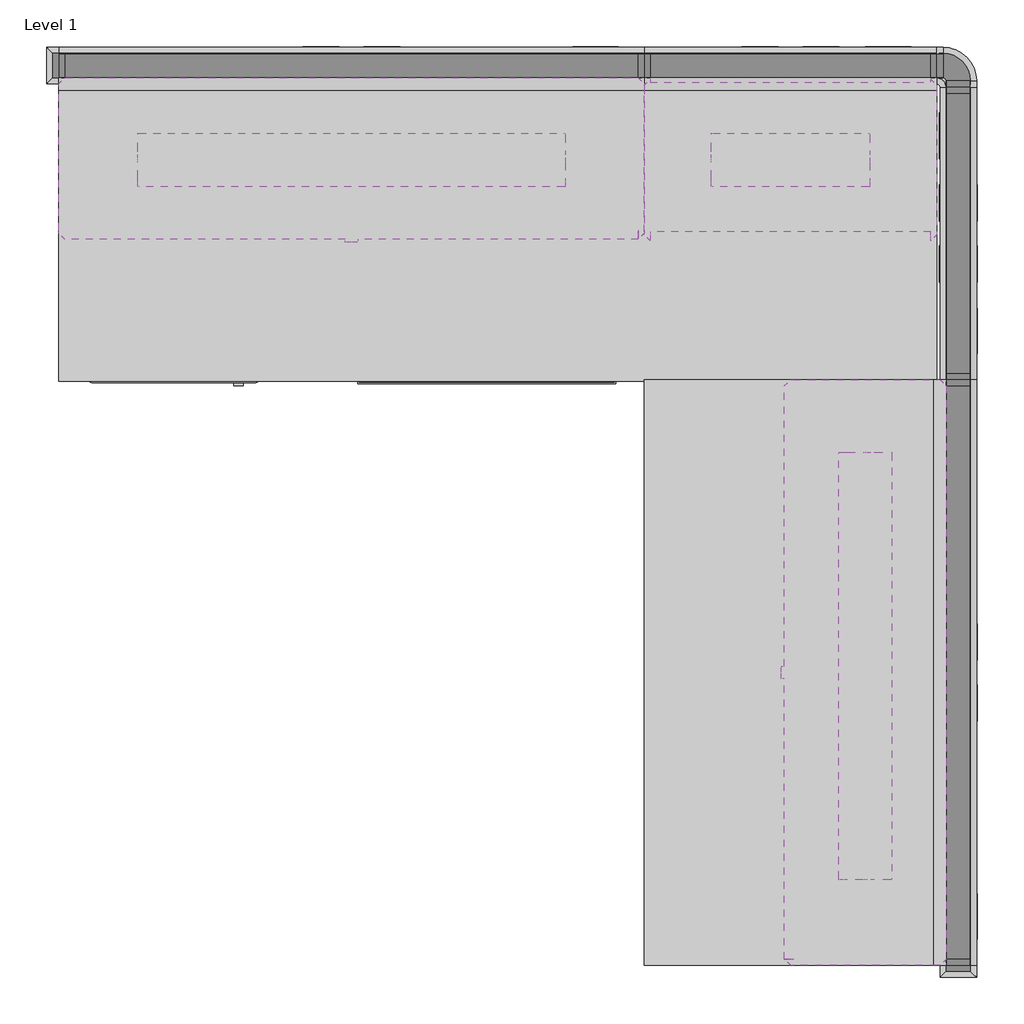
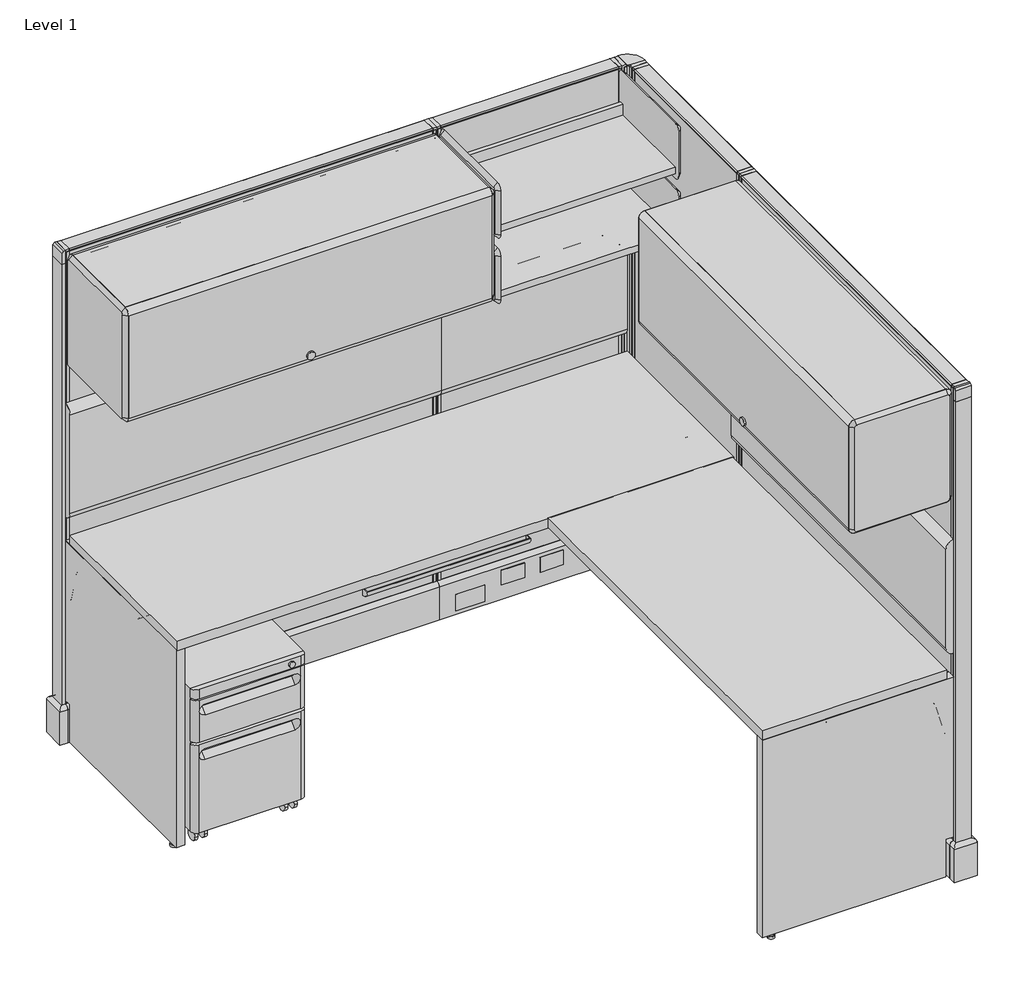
# One storey, incomplete: 20 furniture elements, 3 light fixtures.
"""IFC4 building model written with IfcOpenShell, lengths in millimetres."""

from ifc_helpers import new_model, si_unit, origin, place, context, project, spatial, transform, mapped, element, save
from components import furniture_d54c757f, furniture_899296cf, furniture_561e1995, furniture_cb78dd66, furniture_6098a880, furniture_f3dbc57d, furniture_083a197f, furniture_061b7ed1, furniture_f221023d, furniture_98713a82, furniture_84c54a78, furniture_b7c7402d, furniture_5c2546f9, furniture_ba981915, light_fixture_75efd82d, light_fixture_56844cd6

model = new_model("IFC4")

# Units and contexts
model_context = context("Model", 3, world=origin())
ifc_project = project(units=[si_unit("LENGTHUNIT", "METRE", prefix="MILLI")], contexts=[model_context])

# Site, building, storey
site = spatial("IfcSite", under=ifc_project)
building = spatial("IfcBuilding", under=site)
storey = spatial("IfcBuildingStorey", under=building, Name="Level 1", Elevation=0.0)

# Furniture
placement = place(None, origin())
furniture_shape = furniture_d54c757f(model_context)
element("IfcFurniture", 1, ObjectType="HermanMiller_ThrivePortfolio_Y5010_PencilDrawer : 2\"H x 16\"D x 21\"W", at=placement, inside=storey, context=model_context, shape_type="MappedRepresentation", body=[
    mapped(furniture_shape, transform((891.26568, -481.86848, 0.0), x_axis=(1.0, 0.0, 0.0), y_axis=(0.0, 1.0, 0.0), z_axis=(0.0, 0.0, 1.0))),
])
furniture_2_shape = furniture_899296cf(model_context)
element("IfcFurniture", 2, ObjectType="HermanMiller_ActionOffice_A3220_B-StyleStorageDisplay : Shelf 13\"D x 24\"W", at=placement, inside=storey, context=model_context, shape_type="MappedRepresentation", body=[
    mapped(furniture_2_shape, transform((1647.9420045, -234.95, 0.0), x_axis=(1.0, 0.0, 0.0), y_axis=(0.0, 1.0, 0.0), z_axis=(0.0, 0.0, 1.0))),
])
furniture_3_shape = furniture_561e1995(model_context)
element("IfcFurniture", 3, ObjectType="HermanMiller_ActionOffice_A3220_B-StyleStorageDisplay : Shelf 13\"D x 24\"W", at=placement, inside=storey, context=model_context, shape_type="MappedRepresentation", body=[
    mapped(furniture_3_shape, transform((1647.9420045, -234.95, 0.0), x_axis=(1.0, 0.0, 0.0), y_axis=(0.0, 1.0, 0.0), z_axis=(0.0, 0.0, 1.0))),
])
furniture_4_shape = furniture_cb78dd66(model_context)
element("IfcFurniture", 4, ObjectType="HermanMiller_ActionOffice_A3410_B-StyleTackboard : 16\"H x 48\"W", at=placement, inside=storey, context=model_context, shape_type="MappedRepresentation", body=[
    mapped(furniture_4_shape, transform((1835.15, -1289.05, 0.0), x_axis=(0.0, -1.0, 0.0), y_axis=(1.0, 0.0, 0.0), z_axis=(0.0, 0.0, 1.0))),
])
element("IfcFurniture", 5, ObjectType="HermanMiller_ActionOffice_A3410_B-StyleTackboard : 16\"H x 48\"W", at=placement, inside=storey, context=model_context, shape_type="MappedRepresentation", body=[
    mapped(furniture_4_shape, transform((609.6, -63.5, 0.0), x_axis=(1.0, 0.0, 0.0), y_axis=(0.0, 1.0, 0.0), z_axis=(0.0, 0.0, 1.0))),
])
furniture_5_shape = furniture_6098a880(model_context)
element("IfcFurniture", 6, ObjectType="HermanMiller_ActionOffice_A3352_B-StyleFlipperDoorUnit : 15 1/2\"H x 13\"D x 48\"W", at=placement, inside=storey, context=model_context, shape_type="MappedRepresentation", body=[
    mapped(furniture_5_shape, transform((1666.875, -1289.05, 0.0), x_axis=(0.0, -1.0, 0.0), y_axis=(1.0, 0.0, 0.0), z_axis=(0.0, 0.0, 1.0))),
])
element("IfcFurniture", 7, ObjectType="HermanMiller_ActionOffice_A3352_B-StyleFlipperDoorUnit : 15 1/2\"H x 13\"D x 48\"W", at=placement, inside=storey, context=model_context, shape_type="MappedRepresentation", body=[
    mapped(furniture_5_shape, transform((609.6, -231.775, 0.0), x_axis=(1.0, 0.0, 0.0), y_axis=(0.0, 1.0, 0.0), z_axis=(0.0, 0.0, 1.0))),
])
furniture_6_shape = furniture_f3dbc57d(model_context)
element("IfcFurniture", 8, ObjectType="HermanMiller_ActionOffice_A2310_Sq-EdgeRectangularWorkSurface : 24\"D x 72\"W", at=placement, inside=storey, context=model_context, shape_type="MappedRepresentation", body=[
    mapped(furniture_6_shape, transform((914.4, -368.3, 0.0), x_axis=(1.0, 0.0, 0.0), y_axis=(0.0, 1.0, 0.0), z_axis=(0.0, 0.0, 1.0))),
])
furniture_7_shape = furniture_083a197f(model_context)
element("IfcFurniture", 9, ObjectType="HermanMiller_ActionOffice_A2310_Sq-EdgeRectangularWorkSurface : 24\"D x 48\"W", at=placement, inside=storey, context=model_context, shape_type="MappedRepresentation", body=[
    mapped(furniture_7_shape, transform((1533.525, -1289.05, 0.0), x_axis=(0.0, -1.0, 0.0), y_axis=(1.0, 0.0, 0.0), z_axis=(0.0, 0.0, 1.0))),
])
furniture_8_shape = furniture_061b7ed1(model_context)
element("IfcFurniture", 10, ObjectType="HermanMiller_ActionOffice_A3410_B-StyleTackboard : 16\"H x 24\"W", at=placement, inside=storey, context=model_context, shape_type="MappedRepresentation", body=[
    mapped(furniture_8_shape, transform((1524.0, -63.5, 0.0), x_axis=(1.0, 0.0, 0.0), y_axis=(0.0, 1.0, 0.0), z_axis=(0.0, 0.0, 1.0))),
])
furniture_9_shape = furniture_f221023d(model_context)
element("IfcFurniture", 11, ObjectType="HermanMiller_ActionOffice_A1110_Hard-SurfacedPanelStandardBase : 67\"H x 48\"W-G", at=placement, inside=storey, context=model_context, shape_type="MappedRepresentation", body=[
    mapped(furniture_9_shape, transform((609.6, -25.4, 0.0), x_axis=(1.0, 0.0, 0.0), y_axis=(0.0, 1.0, 0.0), z_axis=(0.0, 0.0, 1.0))),
])
element("IfcFurniture", 12, ObjectType="HermanMiller_ActionOffice_A1110_Hard-SurfacedPanelStandardBase : 67\"H x 48\"W-G", at=placement, inside=storey, context=model_context, shape_type="MappedRepresentation", body=[
    mapped(furniture_9_shape, transform((1873.2493657, -1289.05, 0.0), x_axis=(0.0, -1.0, 0.0), y_axis=(1.0, 0.0, 0.0), z_axis=(0.0, 0.0, 1.0))),
])
furniture_10_shape = furniture_98713a82(model_context)
element("IfcFurniture", 13, ObjectType="HermanMiller_ActionOffice_A1110_Hard-SurfacedPanelStandardBase : 67\"H x 24\"W-G", at=placement, inside=storey, context=model_context, shape_type="MappedRepresentation", body=[
    mapped(furniture_10_shape, transform((1873.2493657, -374.65, 0.0), x_axis=(0.0, -1.0, 0.0), y_axis=(1.0, 0.0, 0.0), z_axis=(0.0, 0.0, 1.0))),
])
element("IfcFurniture", 14, ObjectType="HermanMiller_ActionOffice_A1110_Hard-SurfacedPanelStandardBase : 67\"H x 24\"W-G", at=placement, inside=storey, context=model_context, shape_type="MappedRepresentation", body=[
    mapped(furniture_10_shape, transform((1524.0, -25.4, 0.0), x_axis=(1.0, 0.0, 0.0), y_axis=(0.0, 1.0, 0.0), z_axis=(0.0, 0.0, 1.0))),
])
furniture_11_shape = furniture_84c54a78(model_context)
element("IfcFurniture", 15, ObjectType="HermanMiller_QuadrantFiling_G5111_MobilePedestal : 21-1/2\"H x 20\"D x 15\"W BF", at=placement, inside=storey, context=model_context, shape_type="MappedRepresentation", body=[
    mapped(furniture_11_shape, transform((239.44326, -422.132763, 0.0), x_axis=(1.0, 0.0, 0.0), y_axis=(0.0, 1.0, 0.0), z_axis=(0.0, 0.0, 1.0))),
])
furniture_12_shape = furniture_b7c7402d(model_context)
element("IfcFurniture", 16, ObjectType="HermanMiller_ActionOffice_A2380_WorkSuraceSupportPanelEnd : 24\"D", at=placement, inside=storey, context=model_context, shape_type="MappedRepresentation", body=[
    mapped(furniture_12_shape, transform((1219.2, -1870.075, 0.0), x_axis=(0.0, -1.0, 0.0), y_axis=(1.0, 0.0, 0.0), z_axis=(0.0, 0.0, 1.0))),
])
element("IfcFurniture", 17, ObjectType="HermanMiller_ActionOffice_A2380_WorkSuraceSupportPanelEnd : 24\"D", at=placement, inside=storey, context=model_context, shape_type="MappedRepresentation", body=[
    mapped(furniture_12_shape, transform((0.0, -679.45, 0.0), x_axis=(1.0, 0.0, 0.0), y_axis=(0.0, 1.0, 0.0), z_axis=(0.0, 0.0, 1.0))),
])
furniture_13_shape = furniture_5c2546f9(model_context)
element("IfcFurniture", 18, ObjectType="HermanMiller_ActionOffice_A1271_FinishedEndStandardBase : 67\"H", at=placement, inside=storey, context=model_context, shape_type="MappedRepresentation", body=[
    mapped(furniture_13_shape, transform((4321.9881533, 86.2060512, 0.0), x_axis=(0.0, -1.0, 0.0), y_axis=(1.0, 0.0, 0.0), z_axis=(0.0, 0.0, 1.0))),
])
element("IfcFurniture", 19, ObjectType="HermanMiller_ActionOffice_A1271_FinishedEndStandardBase : 67\"H", at=placement, inside=storey, context=model_context, shape_type="MappedRepresentation", body=[
    mapped(furniture_13_shape, transform((1984.8560512, -2474.1387877, 0.0), x_axis=(-1.0, 0.0, 0.0), y_axis=(0.0, -1.0, 0.0), z_axis=(0.0, 0.0, 1.0))),
])
furniture_14_shape = furniture_ba981915(model_context)
element("IfcFurniture", 20, ObjectType="HermanMiller_ActionOffice_A1220_90ConnectorStandardBase : 67\"H 2-Way-Hard", at=placement, inside=storey, context=model_context, shape_type="MappedRepresentation", body=[
    mapped(furniture_14_shape, transform((1866.9, -39.9139414, 0.0), x_axis=(1.0, 0.0, 0.0), y_axis=(0.0, 1.0, 0.0), z_axis=(0.0, 0.0, 1.0))),
])

# Light fixtures
light_fixture_shape = light_fixture_75efd82d(model_context)
element("IfcLightFixture", 21, ObjectType="HermanMiller_SupplementalProducts_G6136_UtilityTaskLight : AO Etho Canvas 42W", at=placement, inside=storey, context=model_context, shape_type="MappedRepresentation", body=[
    mapped(light_fixture_shape, transform((1679.575, -1275.7454861, 0.0), x_axis=(0.0, -1.0, 0.0), y_axis=(1.0, 0.0, 0.0), z_axis=(0.0, 0.0, 1.0))),
])
element("IfcLightFixture", 22, ObjectType="HermanMiller_SupplementalProducts_G6136_UtilityTaskLight : AO Etho Canvas 42W", at=placement, inside=storey, context=model_context, shape_type="MappedRepresentation", body=[
    mapped(light_fixture_shape, transform((609.6, -222.25, 0.0), x_axis=(1.0, 0.0, 0.0), y_axis=(0.0, 1.0, 0.0), z_axis=(0.0, 0.0, 1.0))),
])
light_fixture_2_shape = light_fixture_56844cd6(model_context)
element("IfcLightFixture", 23, ObjectType="HermanMiller_SupplementalProducts_G6136_UtilityTaskLight : AO Etho Canvas 24W", at=placement, inside=storey, context=model_context, shape_type="MappedRepresentation", body=[
    mapped(light_fixture_2_shape, transform((1524.0, -222.25, 0.0), x_axis=(1.0, 0.0, 0.0), y_axis=(0.0, 1.0, 0.0), z_axis=(0.0, 0.0, 1.0))),
])

save(model, "model.ifc")
